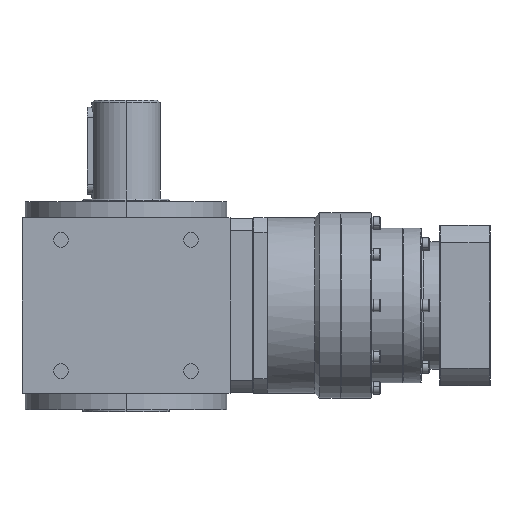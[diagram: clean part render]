
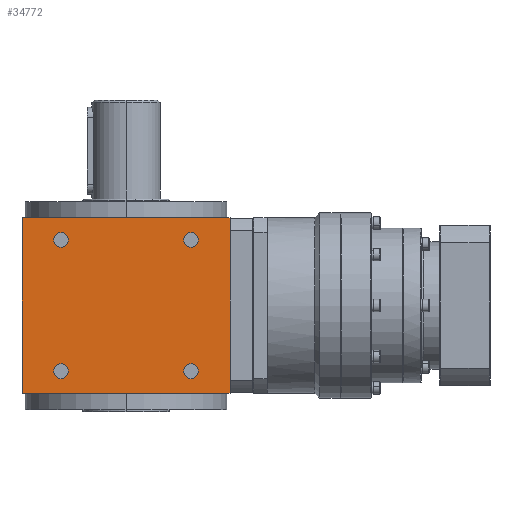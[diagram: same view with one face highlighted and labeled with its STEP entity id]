
A CAD part, left-side view. The second image highlights one B-rep face of the part: STEP entity #34772.
In plain terms, the highlighted planar face has unit normal (-1, 0, 0).
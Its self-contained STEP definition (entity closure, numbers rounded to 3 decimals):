
#163 = DIRECTION ( 'NONE',  ( 1., 0., 0. ) ) ;
#319 = LINE ( 'NONE', #556, #22961 ) ;
#556 = CARTESIAN_POINT ( 'NONE',  ( -84., 0., 71. ) ) ;
#1091 = CARTESIAN_POINT ( 'NONE',  ( -84., 46.5, 53. ) ) ;
#1407 = VECTOR ( 'NONE', #14439, 1000. ) ;
#2611 = DIRECTION ( 'NONE',  ( 1., 0., 0. ) ) ;
#3039 = VERTEX_POINT ( 'NONE', #42409 ) ;
#3897 = CARTESIAN_POINT ( 'NONE',  ( -84., 58.5, -53. ) ) ;
#4177 = EDGE_CURVE ( 'NONE', #6434, #36682, #18900, .T. ) ;
#4473 = ORIENTED_EDGE ( 'NONE', *, *, #48698, .F. ) ;
#5994 = ORIENTED_EDGE ( 'NONE', *, *, #33135, .T. ) ;
#6163 = VERTEX_POINT ( 'NONE', #6379 ) ;
#6356 = CARTESIAN_POINT ( 'NONE',  ( -84., -52.5, 53. ) ) ;
#6379 = CARTESIAN_POINT ( 'NONE',  ( -84., -46.5, 53. ) ) ;
#6412 = VERTEX_POINT ( 'NONE', #19092 ) ;
#6434 = VERTEX_POINT ( 'NONE', #22546 ) ;
#6592 = DIRECTION ( 'NONE',  ( 1., 0., 0. ) ) ;
#6825 = VECTOR ( 'NONE', #28753, 1000. ) ;
#6854 = EDGE_LOOP ( 'NONE', ( #18003, #13194 ) ) ;
#7683 = CARTESIAN_POINT ( 'NONE',  ( -84., 52.5, 53. ) ) ;
#7813 = VERTEX_POINT ( 'NONE', #40334 ) ;
#8240 = CIRCLE ( 'NONE', #39729, 6. ) ;
#8303 = ORIENTED_EDGE ( 'NONE', *, *, #17446, .T. ) ;
#8357 = EDGE_CURVE ( 'NONE', #36682, #6434, #24703, .T. ) ;
#8793 = EDGE_CURVE ( 'NONE', #48453, #6412, #8240, .T. ) ;
#9588 = FACE_BOUND ( 'NONE', #33686, .T. ) ;
#9754 = CIRCLE ( 'NONE', #34922, 6. ) ;
#10267 = AXIS2_PLACEMENT_3D ( 'NONE', #42421, #25621, #44346 ) ;
#10306 = DIRECTION ( 'NONE',  ( 1., 0., 0. ) ) ;
#11093 = CARTESIAN_POINT ( 'NONE',  ( -84., 52.5, -53. ) ) ;
#11151 = CIRCLE ( 'NONE', #33971, 6. ) ;
#11541 = CARTESIAN_POINT ( 'NONE',  ( -84., 84., 71. ) ) ;
#11693 = LINE ( 'NONE', #41262, #1407 ) ;
#12790 = CARTESIAN_POINT ( 'NONE',  ( -84., -52.5, -53. ) ) ;
#13194 = ORIENTED_EDGE ( 'NONE', *, *, #42839, .T. ) ;
#13285 = FACE_BOUND ( 'NONE', #24882, .T. ) ;
#13341 = CARTESIAN_POINT ( 'NONE',  ( -84., -84., 71. ) ) ;
#13528 = FACE_BOUND ( 'NONE', #6854, .T. ) ;
#13624 = CIRCLE ( 'NONE', #30959, 6. ) ;
#13724 = LINE ( 'NONE', #21368, #6825 ) ;
#13822 = EDGE_CURVE ( 'NONE', #6163, #3039, #36317, .T. ) ;
#14090 = CARTESIAN_POINT ( 'NONE',  ( -84., 84., -71. ) ) ;
#14167 = AXIS2_PLACEMENT_3D ( 'NONE', #46545, #35453, #28325 ) ;
#14439 = DIRECTION ( 'NONE',  ( 0., -1., 0. ) ) ;
#15614 = DIRECTION ( 'NONE',  ( 0., -1., 0. ) ) ;
#16381 = EDGE_LOOP ( 'NONE', ( #19817, #31275 ) ) ;
#17446 = EDGE_CURVE ( 'NONE', #3039, #6163, #9754, .T. ) ;
#17477 = PLANE ( 'NONE',  #14167 ) ;
#17611 = EDGE_CURVE ( 'NONE', #33866, #7813, #45490, .T. ) ;
#18003 = ORIENTED_EDGE ( 'NONE', *, *, #46912, .T. ) ;
#18269 = VERTEX_POINT ( 'NONE', #22237 ) ;
#18900 = CIRCLE ( 'NONE', #10267, 6. ) ;
#18995 = EDGE_CURVE ( 'NONE', #6412, #48453, #13624, .T. ) ;
#19092 = CARTESIAN_POINT ( 'NONE',  ( -84., 46.5, -53. ) ) ;
#19817 = ORIENTED_EDGE ( 'NONE', *, *, #8357, .T. ) ;
#20915 = ORIENTED_EDGE ( 'NONE', *, *, #25694, .F. ) ;
#21098 = DIRECTION ( 'NONE',  ( 0., -1., 0. ) ) ;
#21368 = CARTESIAN_POINT ( 'NONE',  ( -84., 84., -71. ) ) ;
#21374 = AXIS2_PLACEMENT_3D ( 'NONE', #37155, #163, #33213 ) ;
#21381 = DIRECTION ( 'NONE',  ( 0., -1., 0. ) ) ;
#22237 = CARTESIAN_POINT ( 'NONE',  ( -84., -46.5, -53. ) ) ;
#22546 = CARTESIAN_POINT ( 'NONE',  ( -84., 58.5, 53. ) ) ;
#22961 = VECTOR ( 'NONE', #15614, 1000. ) ;
#23077 = VERTEX_POINT ( 'NONE', #40119 ) ;
#24703 = CIRCLE ( 'NONE', #47488, 6. ) ;
#24781 = ORIENTED_EDGE ( 'NONE', *, *, #13822, .T. ) ;
#24882 = EDGE_LOOP ( 'NONE', ( #8303, #24781 ) ) ;
#25621 = DIRECTION ( 'NONE',  ( 1., 0., 0. ) ) ;
#25694 = EDGE_CURVE ( 'NONE', #30526, #33866, #319, .T. ) ;
#26400 = ORIENTED_EDGE ( 'NONE', *, *, #8793, .T. ) ;
#27001 = CARTESIAN_POINT ( 'NONE',  ( -84., -84., -71. ) ) ;
#27592 = DIRECTION ( 'NONE',  ( 1., 0., 0. ) ) ;
#27827 = DIRECTION ( 'NONE',  ( 0., -1., 0. ) ) ;
#28325 = DIRECTION ( 'NONE',  ( 0., -1., 0. ) ) ;
#28566 = EDGE_LOOP ( 'NONE', ( #4473, #5994, #30930, #20915 ) ) ;
#28753 = DIRECTION ( 'NONE',  ( 0., 0., 1. ) ) ;
#30370 = CIRCLE ( 'NONE', #42971, 6. ) ;
#30455 = DIRECTION ( 'NONE',  ( 0., 0., -1. ) ) ;
#30526 = VERTEX_POINT ( 'NONE', #11541 ) ;
#30930 = ORIENTED_EDGE ( 'NONE', *, *, #17611, .F. ) ;
#30959 = AXIS2_PLACEMENT_3D ( 'NONE', #43816, #10306, #47747 ) ;
#31275 = ORIENTED_EDGE ( 'NONE', *, *, #4177, .T. ) ;
#32584 = VECTOR ( 'NONE', #30455, 1000. ) ;
#33135 = EDGE_CURVE ( 'NONE', #44794, #7813, #11693, .T. ) ;
#33213 = DIRECTION ( 'NONE',  ( 0., -1., 0. ) ) ;
#33686 = EDGE_LOOP ( 'NONE', ( #46888, #26400 ) ) ;
#33866 = VERTEX_POINT ( 'NONE', #13341 ) ;
#33971 = AXIS2_PLACEMENT_3D ( 'NONE', #39573, #2611, #21098 ) ;
#34286 = DIRECTION ( 'NONE',  ( 1., 0., 0. ) ) ;
#34772 = ADVANCED_FACE ( 'NONE', ( #43101, #47282, #13285, #13528, #9588 ), #17477, .T. ) ;
#34922 = AXIS2_PLACEMENT_3D ( 'NONE', #6356, #6592, #21381 ) ;
#35453 = DIRECTION ( 'NONE',  ( -1., 0., 0. ) ) ;
#36317 = CIRCLE ( 'NONE', #21374, 6. ) ;
#36682 = VERTEX_POINT ( 'NONE', #1091 ) ;
#36735 = DIRECTION ( 'NONE',  ( 1., 0., 0. ) ) ;
#37155 = CARTESIAN_POINT ( 'NONE',  ( -84., -52.5, 53. ) ) ;
#37695 = DIRECTION ( 'NONE',  ( 0., -1., 0. ) ) ;
#39573 = CARTESIAN_POINT ( 'NONE',  ( -84., -52.5, -53. ) ) ;
#39729 = AXIS2_PLACEMENT_3D ( 'NONE', #11093, #36735, #37695 ) ;
#40119 = CARTESIAN_POINT ( 'NONE',  ( -84., -58.5, -53. ) ) ;
#40334 = CARTESIAN_POINT ( 'NONE',  ( -84., -84., -71. ) ) ;
#41262 = CARTESIAN_POINT ( 'NONE',  ( -84., 0., -71. ) ) ;
#41438 = DIRECTION ( 'NONE',  ( 0., -1., 0. ) ) ;
#42409 = CARTESIAN_POINT ( 'NONE',  ( -84., -58.5, 53. ) ) ;
#42421 = CARTESIAN_POINT ( 'NONE',  ( -84., 52.5, 53. ) ) ;
#42839 = EDGE_CURVE ( 'NONE', #18269, #23077, #11151, .T. ) ;
#42971 = AXIS2_PLACEMENT_3D ( 'NONE', #12790, #27592, #27827 ) ;
#43101 = FACE_OUTER_BOUND ( 'NONE', #28566, .T. ) ;
#43816 = CARTESIAN_POINT ( 'NONE',  ( -84., 52.5, -53. ) ) ;
#44346 = DIRECTION ( 'NONE',  ( 0., -1., 0. ) ) ;
#44794 = VERTEX_POINT ( 'NONE', #14090 ) ;
#45490 = LINE ( 'NONE', #27001, #32584 ) ;
#46545 = CARTESIAN_POINT ( 'NONE',  ( -84., 84., -71. ) ) ;
#46888 = ORIENTED_EDGE ( 'NONE', *, *, #18995, .T. ) ;
#46912 = EDGE_CURVE ( 'NONE', #23077, #18269, #30370, .T. ) ;
#47282 = FACE_BOUND ( 'NONE', #16381, .T. ) ;
#47488 = AXIS2_PLACEMENT_3D ( 'NONE', #7683, #34286, #41438 ) ;
#47747 = DIRECTION ( 'NONE',  ( 0., -1., 0. ) ) ;
#48453 = VERTEX_POINT ( 'NONE', #3897 ) ;
#48698 = EDGE_CURVE ( 'NONE', #44794, #30526, #13724, .T. ) ;
